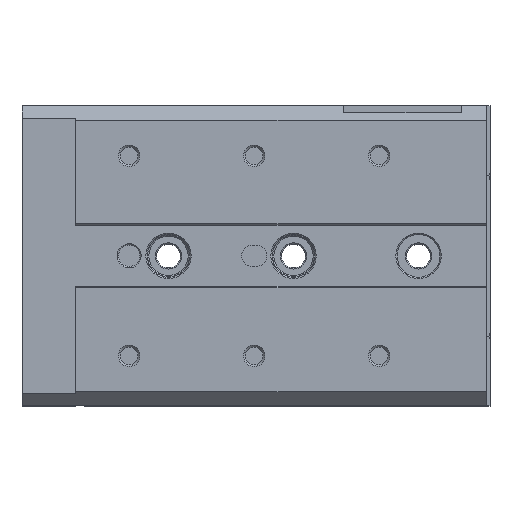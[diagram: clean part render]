
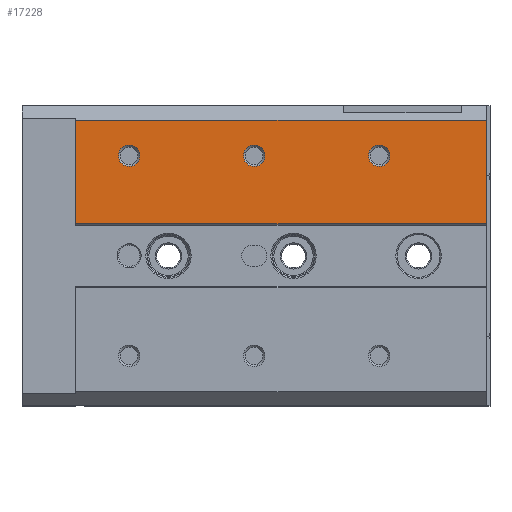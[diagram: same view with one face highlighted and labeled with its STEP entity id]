
A CAD part, top view. The second image highlights one B-rep face of the part: STEP entity #17228.
In plain terms, the highlighted planar face has unit normal (0, 0, 1).
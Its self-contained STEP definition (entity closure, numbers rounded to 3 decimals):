
#2 = CARTESIAN_POINT ( 'NONE',  ( 112.5, 38., 44. ) ) ;
#229 = EDGE_LOOP ( 'NONE', ( #1902, #6408, #14509, #10071 ) ) ;
#502 = EDGE_CURVE ( 'NONE', #10957, #15652, #9900, .T. ) ;
#567 = AXIS2_PLACEMENT_3D ( 'NONE', #2957, #8296, #4357 ) ;
#824 = AXIS2_PLACEMENT_3D ( 'NONE', #1278, #9427, #1678 ) ;
#993 = CARTESIAN_POINT ( 'NONE',  ( 50.5, 28., 44. ) ) ;
#1181 = AXIS2_PLACEMENT_3D ( 'NONE', #2088, #2210, #3547 ) ;
#1278 = CARTESIAN_POINT ( 'NONE',  ( 47.5, 28., 44. ) ) ;
#1479 = CARTESIAN_POINT ( 'NONE',  ( 112.5, 9., 44. ) ) ;
#1584 = AXIS2_PLACEMENT_3D ( 'NONE', #10030, #4624, #16872 ) ;
#1622 = ORIENTED_EDGE ( 'NONE', *, *, #11314, .F. ) ;
#1678 = DIRECTION ( 'NONE',  ( 1., 0., 0. ) ) ;
#1736 = VECTOR ( 'NONE', #12850, 1000. ) ;
#1801 = DIRECTION ( 'NONE',  ( 0., 0., -1. ) ) ;
#1902 = ORIENTED_EDGE ( 'NONE', *, *, #502, .F. ) ;
#2024 = EDGE_CURVE ( 'NONE', #15652, #6617, #15496, .T. ) ;
#2088 = CARTESIAN_POINT ( 'NONE',  ( 12.5, 28., 44. ) ) ;
#2210 = DIRECTION ( 'NONE',  ( 0., 0., 1. ) ) ;
#2606 = EDGE_CURVE ( 'NONE', #3470, #7043, #13604, .T. ) ;
#2957 = CARTESIAN_POINT ( 'NONE',  ( 47.5, 28., 44. ) ) ;
#3201 = ORIENTED_EDGE ( 'NONE', *, *, #6122, .F. ) ;
#3470 = VERTEX_POINT ( 'NONE', #993 ) ;
#3547 = DIRECTION ( 'NONE',  ( 1., 0., 0. ) ) ;
#4135 = ORIENTED_EDGE ( 'NONE', *, *, #11730, .F. ) ;
#4213 = CIRCLE ( 'NONE', #1181, 3. ) ;
#4357 = DIRECTION ( 'NONE',  ( 1., 0., 0. ) ) ;
#4624 = DIRECTION ( 'NONE',  ( 0., 0., 1. ) ) ;
#4647 = VECTOR ( 'NONE', #11917, 1000. ) ;
#4673 = CARTESIAN_POINT ( 'NONE',  ( -2.5, 38., 44. ) ) ;
#4766 = CIRCLE ( 'NONE', #9778, 3. ) ;
#4970 = CARTESIAN_POINT ( 'NONE',  ( 85.5, 28., 44. ) ) ;
#5005 = ORIENTED_EDGE ( 'NONE', *, *, #7717, .F. ) ;
#5028 = AXIS2_PLACEMENT_3D ( 'NONE', #14092, #1801, #8518 ) ;
#5699 = CARTESIAN_POINT ( 'NONE',  ( 44.5, 28., 44. ) ) ;
#5906 = CARTESIAN_POINT ( 'NONE',  ( -2.5, 38., 44. ) ) ;
#6122 = EDGE_CURVE ( 'NONE', #10622, #12893, #13719, .T. ) ;
#6264 = LINE ( 'NONE', #8539, #16725 ) ;
#6408 = ORIENTED_EDGE ( 'NONE', *, *, #11890, .F. ) ;
#6617 = VERTEX_POINT ( 'NONE', #5906 ) ;
#7043 = VERTEX_POINT ( 'NONE', #5699 ) ;
#7339 = DIRECTION ( 'NONE',  ( 0., -1., 0. ) ) ;
#7578 = FACE_OUTER_BOUND ( 'NONE', #229, .T. ) ;
#7717 = EDGE_CURVE ( 'NONE', #7043, #3470, #12885, .T. ) ;
#7840 = AXIS2_PLACEMENT_3D ( 'NONE', #8938, #15738, #16997 ) ;
#8216 = VERTEX_POINT ( 'NONE', #2 ) ;
#8296 = DIRECTION ( 'NONE',  ( 0., 0., 1. ) ) ;
#8518 = DIRECTION ( 'NONE',  ( -1., 0., 0. ) ) ;
#8539 = CARTESIAN_POINT ( 'NONE',  ( 112.5, 38., 44. ) ) ;
#8612 = EDGE_LOOP ( 'NONE', ( #8820, #5005 ) ) ;
#8820 = ORIENTED_EDGE ( 'NONE', *, *, #2606, .F. ) ;
#8938 = CARTESIAN_POINT ( 'NONE',  ( 82.5, 28., 44. ) ) ;
#9395 = CARTESIAN_POINT ( 'NONE',  ( 112.5, 38., 44. ) ) ;
#9427 = DIRECTION ( 'NONE',  ( 0., 0., 1. ) ) ;
#9778 = AXIS2_PLACEMENT_3D ( 'NONE', #16745, #11267, #15318 ) ;
#9900 = LINE ( 'NONE', #10104, #1736 ) ;
#10030 = CARTESIAN_POINT ( 'NONE',  ( 12.5, 28., 44. ) ) ;
#10071 = ORIENTED_EDGE ( 'NONE', *, *, #2024, .F. ) ;
#10104 = CARTESIAN_POINT ( 'NONE',  ( 112.5, 9., 44. ) ) ;
#10382 = FACE_BOUND ( 'NONE', #17621, .T. ) ;
#10622 = VERTEX_POINT ( 'NONE', #4970 ) ;
#10858 = EDGE_CURVE ( 'NONE', #6617, #8216, #12591, .T. ) ;
#10957 = VERTEX_POINT ( 'NONE', #1479 ) ;
#11128 = CARTESIAN_POINT ( 'NONE',  ( -2.5, 9., 44. ) ) ;
#11267 = DIRECTION ( 'NONE',  ( 0., 0., 1. ) ) ;
#11287 = CARTESIAN_POINT ( 'NONE',  ( 9.5, 28., 44. ) ) ;
#11307 = CARTESIAN_POINT ( 'NONE',  ( 79.5, 28., 44. ) ) ;
#11314 = EDGE_CURVE ( 'NONE', #12131, #13324, #4213, .T. ) ;
#11730 = EDGE_CURVE ( 'NONE', #12893, #10622, #4766, .T. ) ;
#11849 = ORIENTED_EDGE ( 'NONE', *, *, #17579, .F. ) ;
#11890 = EDGE_CURVE ( 'NONE', #8216, #10957, #6264, .T. ) ;
#11917 = DIRECTION ( 'NONE',  ( 1., 0., 0. ) ) ;
#12131 = VERTEX_POINT ( 'NONE', #11287 ) ;
#12591 = LINE ( 'NONE', #9395, #4647 ) ;
#12780 = PLANE ( 'NONE',  #5028 ) ;
#12850 = DIRECTION ( 'NONE',  ( -1., 0., 0. ) ) ;
#12885 = CIRCLE ( 'NONE', #567, 3. ) ;
#12893 = VERTEX_POINT ( 'NONE', #11307 ) ;
#13156 = FACE_BOUND ( 'NONE', #15448, .T. ) ;
#13324 = VERTEX_POINT ( 'NONE', #13362 ) ;
#13362 = CARTESIAN_POINT ( 'NONE',  ( 15.5, 28., 44. ) ) ;
#13604 = CIRCLE ( 'NONE', #824, 3. ) ;
#13719 = CIRCLE ( 'NONE', #7840, 3. ) ;
#14092 = CARTESIAN_POINT ( 'NONE',  ( 112.5, 38., 44. ) ) ;
#14314 = DIRECTION ( 'NONE',  ( 0., 1., 0. ) ) ;
#14509 = ORIENTED_EDGE ( 'NONE', *, *, #10858, .F. ) ;
#14635 = FACE_BOUND ( 'NONE', #8612, .T. ) ;
#15318 = DIRECTION ( 'NONE',  ( 1., 0., 0. ) ) ;
#15448 = EDGE_LOOP ( 'NONE', ( #11849, #1622 ) ) ;
#15496 = LINE ( 'NONE', #4673, #16134 ) ;
#15652 = VERTEX_POINT ( 'NONE', #11128 ) ;
#15738 = DIRECTION ( 'NONE',  ( 0., 0., 1. ) ) ;
#16110 = CIRCLE ( 'NONE', #1584, 3. ) ;
#16134 = VECTOR ( 'NONE', #14314, 1000. ) ;
#16725 = VECTOR ( 'NONE', #7339, 1000. ) ;
#16745 = CARTESIAN_POINT ( 'NONE',  ( 82.5, 28., 44. ) ) ;
#16872 = DIRECTION ( 'NONE',  ( 1., 0., 0. ) ) ;
#16997 = DIRECTION ( 'NONE',  ( 1., 0., 0. ) ) ;
#17228 = ADVANCED_FACE ( 'NONE', ( #7578, #13156, #14635, #10382 ), #12780, .F. ) ;
#17579 = EDGE_CURVE ( 'NONE', #13324, #12131, #16110, .T. ) ;
#17621 = EDGE_LOOP ( 'NONE', ( #3201, #4135 ) ) ;
